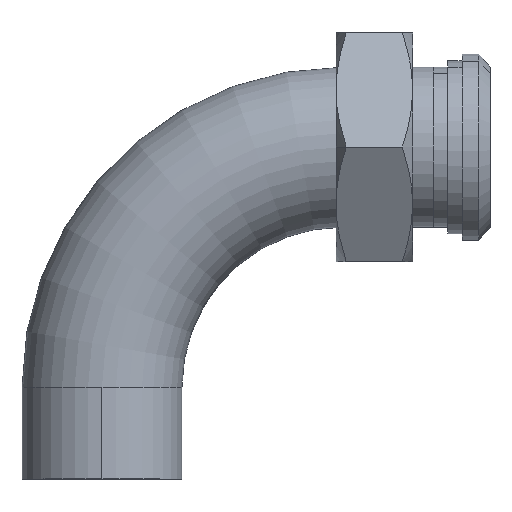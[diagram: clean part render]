
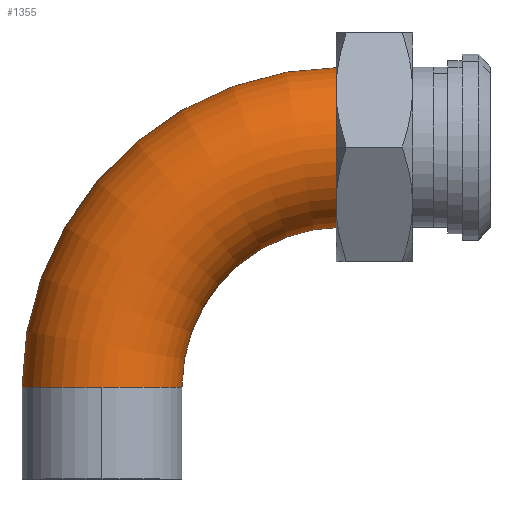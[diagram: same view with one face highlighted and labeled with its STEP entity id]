
A CAD part, top view. The second image highlights one B-rep face of the part: STEP entity #1355.
In plain terms, the highlighted toroidal (fillet/blend) face has major radius 95.25 mm and minor radius 31.75 mm.
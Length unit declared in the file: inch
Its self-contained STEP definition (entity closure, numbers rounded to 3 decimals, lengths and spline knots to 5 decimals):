
#35 = CIRCLE ( 'NONE', #574, 2.5 ) ;
#98 = CARTESIAN_POINT ( 'NONE',  ( 3.75, 6.437, 0. ) ) ;
#133 = ORIENTED_EDGE ( 'NONE', *, *, #2374, .T. ) ;
#237 = DIRECTION ( 'NONE',  ( 0., 0., 1. ) ) ;
#283 = DIRECTION ( 'NONE',  ( 0., 0., -1. ) ) ;
#339 = ORIENTED_EDGE ( 'NONE', *, *, #2470, .F. ) ;
#392 = AXIS2_PLACEMENT_3D ( 'NONE', #633, #2521, #905 ) ;
#523 = DIRECTION ( 'NONE',  ( 0., 1., 0. ) ) ;
#574 = AXIS2_PLACEMENT_3D ( 'NONE', #2762, #1162, #3030 ) ;
#633 = CARTESIAN_POINT ( 'NONE',  ( 3.75, 1.437, 0. ) ) ;
#905 = DIRECTION ( 'NONE',  ( -1., 0., 0. ) ) ;
#986 = ORIENTED_EDGE ( 'NONE', *, *, #3325, .T. ) ;
#1045 = VERTEX_POINT ( 'NONE', #3407 ) ;
#1081 = AXIS2_PLACEMENT_3D ( 'NONE', #2142, #523, #2409 ) ;
#1106 = CARTESIAN_POINT ( 'NONE',  ( 0., 1.437, 0. ) ) ;
#1162 = DIRECTION ( 'NONE',  ( 0., 0., -1. ) ) ;
#1223 = FACE_OUTER_BOUND ( 'NONE', #1613, .T. ) ;
#1355 = ADVANCED_FACE ( 'NONE', ( #1223 ), #2726, .T. ) ;
#1395 = DIRECTION ( 'NONE',  ( 0., 0., 1. ) ) ;
#1427 = CARTESIAN_POINT ( 'NONE',  ( -1.25, 1.437, 0. ) ) ;
#1613 = EDGE_LOOP ( 'NONE', ( #339, #2463, #986, #133, #3001 ) ) ;
#1782 = AXIS2_PLACEMENT_3D ( 'NONE', #1106, #2984, #1395 ) ;
#1813 = VERTEX_POINT ( 'NONE', #1427 ) ;
#1851 = AXIS2_PLACEMENT_3D ( 'NONE', #3456, #1872, #237 ) ;
#1869 = VERTEX_POINT ( 'NONE', #98 ) ;
#1872 = DIRECTION ( 'NONE',  ( 1., 0., 0. ) ) ;
#1917 = CARTESIAN_POINT ( 'NONE',  ( 3.75, 1.437, 0. ) ) ;
#2142 = CARTESIAN_POINT ( 'NONE',  ( 0., 1.437, 0. ) ) ;
#2177 = DIRECTION ( 'NONE',  ( -1., 0., 0. ) ) ;
#2374 = EDGE_CURVE ( 'NONE', #2606, #1045, #35, .T. ) ;
#2409 = DIRECTION ( 'NONE',  ( 0., 0., 1. ) ) ;
#2463 = ORIENTED_EDGE ( 'NONE', *, *, #2767, .T. ) ;
#2470 = EDGE_CURVE ( 'NONE', #1813, #1869, #3354, .T. ) ;
#2521 = DIRECTION ( 'NONE',  ( 0., 0., -1. ) ) ;
#2560 = CIRCLE ( 'NONE', #1851, 1.25 ) ;
#2561 = CARTESIAN_POINT ( 'NONE',  ( 1.25, 1.437, 0. ) ) ;
#2606 = VERTEX_POINT ( 'NONE', #2561 ) ;
#2702 = AXIS2_PLACEMENT_3D ( 'NONE', #1917, #283, #2177 ) ;
#2718 = EDGE_CURVE ( 'NONE', #1869, #1045, #2560, .T. ) ;
#2726 = TOROIDAL_SURFACE ( 'NONE', #2702, 3.75, 1.25 ) ;
#2762 = CARTESIAN_POINT ( 'NONE',  ( 3.75, 1.437, 0. ) ) ;
#2767 = EDGE_CURVE ( 'NONE', #1813, #2859, #3381, .T. ) ;
#2859 = VERTEX_POINT ( 'NONE', #2968 ) ;
#2968 = CARTESIAN_POINT ( 'NONE',  ( 0., 1.437, 1.25 ) ) ;
#2984 = DIRECTION ( 'NONE',  ( 0., 1., 0. ) ) ;
#3001 = ORIENTED_EDGE ( 'NONE', *, *, #2718, .F. ) ;
#3030 = DIRECTION ( 'NONE',  ( -1., 0., 0. ) ) ;
#3166 = CIRCLE ( 'NONE', #1782, 1.25 ) ;
#3325 = EDGE_CURVE ( 'NONE', #2859, #2606, #3166, .T. ) ;
#3354 = CIRCLE ( 'NONE', #392, 5. ) ;
#3381 = CIRCLE ( 'NONE', #1081, 1.25 ) ;
#3407 = CARTESIAN_POINT ( 'NONE',  ( 3.75, 3.937, 0. ) ) ;
#3456 = CARTESIAN_POINT ( 'NONE',  ( 3.75, 5.187, 0. ) ) ;
